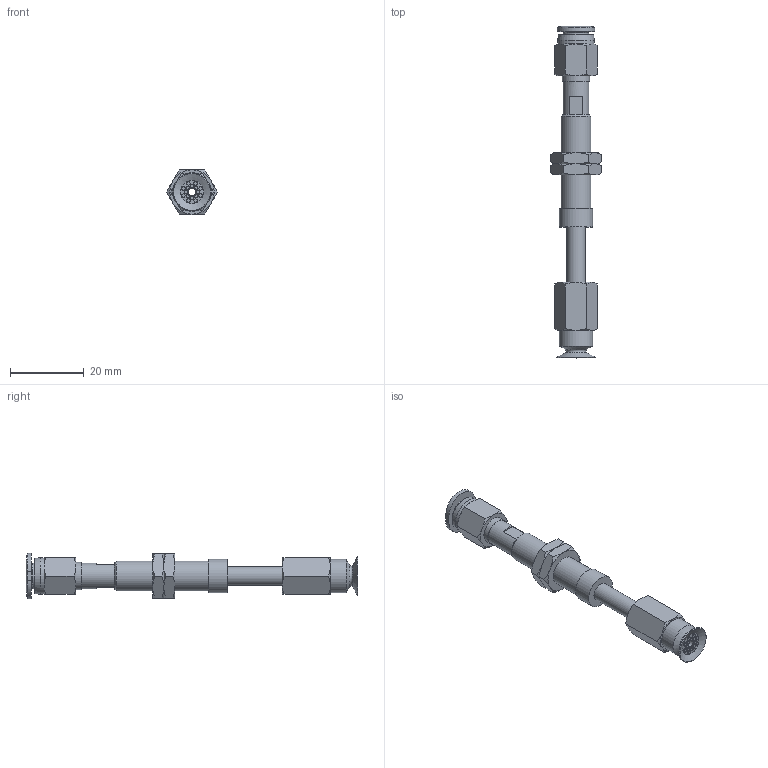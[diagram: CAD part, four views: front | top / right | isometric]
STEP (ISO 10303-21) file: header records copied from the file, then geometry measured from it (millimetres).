
FILE_DESCRIPTION(('STEP AP203'),'1');
FILE_NAME('-O.stp','2025-08-26T08:39:30',(' '),(' '),'Spatial InterOp 3D',' ',' ');
FILE_SCHEMA(('CONFIG_CONTROL_DESIGN'));
Length unit declared in the file: millimetre
Products named in the file (7): BNABPATS-10A-15-※-O; ADAPTER; NAPATS-10A-15--M; NAPATS-10A-15--F; Nut-10A-S; BPAG-10A-※_3D; PC-C_06-M5
Assembly tree (7 placements, depth 2):
  BNABPATS-10A-15-※-O
    ADAPTER
    NAPATS-10A-15--M
    NAPATS-10A-15--F
    Nut-10A-S  x2
    BPAG-10A-※_3D
    PC-C_06-M5
Bounding box: 13.86 x 89.98 x 12.4 mm (x, y, z)
Volume: 3930.6 mm3; surface area: 5788.6 mm2
Topology: 6 solids, 9 shells, 196 faces, 385 edges, 235 vertices
Faces by surface type: plane 74, cone 62, cylinder 41, torus 12, bspline 4, revolution 3
Full cylindrical faces by diameter (mm): 0.9 x16, 2 x3, 4 x4, 4.134 x1, 5 x3, 6 x2, 7 x2, 7.188 x2, 7.4 x1, 8 x1, 8.2 x1, 9 x2, 10 x1
Entity records: 4796 total; most frequent: CARTESIAN_POINT 1278, DIRECTION 679, ORIENTED_EDGE 522, AXIS2_PLACEMENT_3D 318, EDGE_LOOP 278, EDGE_CURVE 263, VERTEX_POINT 197, FACE_OUTER_BOUND 163
